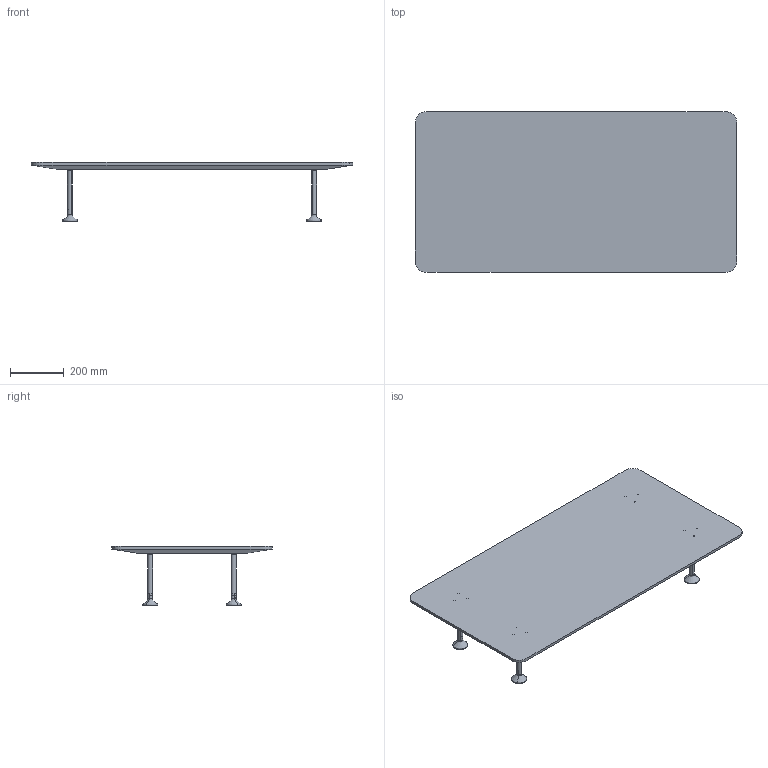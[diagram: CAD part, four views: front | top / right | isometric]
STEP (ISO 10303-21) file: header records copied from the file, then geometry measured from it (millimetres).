
FILE_DESCRIPTION(/* description */ (''),/* implementation_level */ '2;1');
FILE_NAME(/* name */ 'RECTAN~1',/* time_stamp */ '2016-09-23T10:06:00+02:00',/* author */ (''),/* organization */ (''),/* preprocessor_version */ 'ST-DEVELOPER v14',/* originating_system */ '',/* authorisation */ '');
FILE_SCHEMA (('CONFIG_CONTROL_DESIGN'));
Length unit declared in the file: millimetre
Products named in the file (1): Document
Bounding box: 1200 x 600 x 221 mm (x, y, z)
Volume: 16102172.1 mm3; surface area: 1637717.1 mm2
Topology: 13 solids, 13 shells, 182 faces, 394 edges, 238 vertices
Faces by surface type: bspline 148, plane 34
Entity records: 19542 total; most frequent: CARTESIAN_POINT 17238, ORIENTED_EDGE 756, EDGE_CURVE 378, EDGE_LOOP 238, VERTEX_POINT 238, ADVANCED_FACE 182, FACE_OUTER_BOUND 182, FACE_BOUND 56
